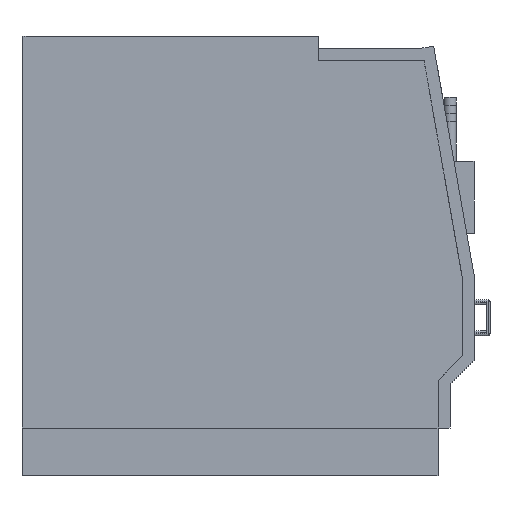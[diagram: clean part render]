
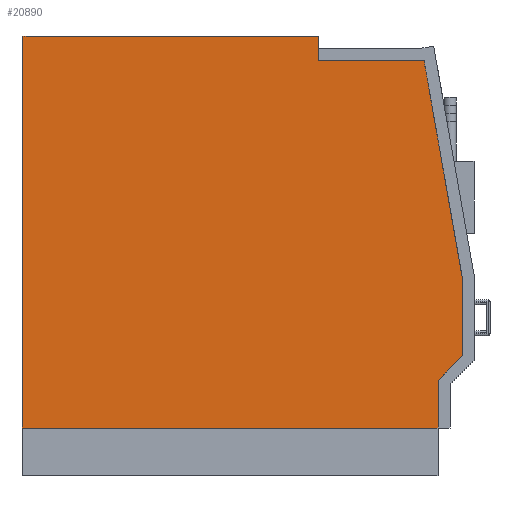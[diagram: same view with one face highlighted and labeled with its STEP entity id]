
A CAD part, left-side view. The second image highlights one B-rep face of the part: STEP entity #20890.
In plain terms, the highlighted planar face has unit normal (-1, 0, 0) as drawn and (0, 0, -1) by its records, which use the part's own axes.
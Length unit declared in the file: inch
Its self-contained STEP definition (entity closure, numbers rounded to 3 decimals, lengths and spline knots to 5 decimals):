
#2045=LINE('',#34147,#4017);
#2047=LINE('',#34152,#4019);
#2052=LINE('',#34162,#4024);
#2055=LINE('',#34167,#4027);
#2058=LINE('',#34173,#4030);
#2059=LINE('',#34176,#4031);
#2060=LINE('',#34177,#4032);
#2061=LINE('',#34178,#4033);
#2062=LINE('',#34179,#4034);
#4017=VECTOR('',#26940,12.);
#4019=VECTOR('',#26944,6.);
#4024=VECTOR('',#26951,26.47834);
#4027=VECTOR('',#26956,74.);
#4030=VECTOR('',#26961,20.);
#4031=VECTOR('',#26964,98.);
#4032=VECTOR('',#26965,104.);
#4033=VECTOR('',#26966,8.48528);
#4034=VECTOR('',#26967,54.83304);
#5846=FACE_OUTER_BOUND('',#7071,.T.);
#7071=EDGE_LOOP('',(#17122,#17123,#17124,#17125,#17126,#17127,#17128,#17129,
#17130));
#9555=VERTEX_POINT('',#34143);
#9556=VERTEX_POINT('',#34145);
#9557=VERTEX_POINT('',#34149);
#9558=VERTEX_POINT('',#34151);
#9562=VERTEX_POINT('',#34161);
#9563=VERTEX_POINT('',#34165);
#9564=VERTEX_POINT('',#34169);
#9565=VERTEX_POINT('',#34171);
#9566=VERTEX_POINT('',#34175);
#12205=EDGE_CURVE('',#9556,#9555,#2045,.T.);
#12207=EDGE_CURVE('',#9558,#9557,#2047,.T.);
#12212=EDGE_CURVE('',#9562,#9558,#2052,.T.);
#12215=EDGE_CURVE('',#9563,#9557,#2055,.T.);
#12218=EDGE_CURVE('',#9565,#9564,#2058,.T.);
#12219=EDGE_CURVE('',#9563,#9566,#2059,.T.);
#12220=EDGE_CURVE('',#9566,#9555,#2060,.T.);
#12221=EDGE_CURVE('',#9556,#9564,#2061,.F.);
#12222=EDGE_CURVE('',#9565,#9562,#2062,.T.);
#17122=ORIENTED_EDGE('',*,*,#12212,.T.);
#17123=ORIENTED_EDGE('',*,*,#12207,.T.);
#17124=ORIENTED_EDGE('',*,*,#12215,.F.);
#17125=ORIENTED_EDGE('',*,*,#12219,.T.);
#17126=ORIENTED_EDGE('',*,*,#12220,.T.);
#17127=ORIENTED_EDGE('',*,*,#12205,.F.);
#17128=ORIENTED_EDGE('',*,*,#12221,.T.);
#17129=ORIENTED_EDGE('',*,*,#12218,.F.);
#17130=ORIENTED_EDGE('',*,*,#12222,.T.);
#19853=PLANE('',#22813);
#20890=ADVANCED_FACE('',(#5846),#19853,.F.);
#22813=AXIS2_PLACEMENT_3D('',#34174,#26962,#26963);
#26940=DIRECTION('',(-1.,0.,0.));
#26944=DIRECTION('',(1.,0.,0.));
#26951=DIRECTION('',(0.,-1.,0.));
#26956=DIRECTION('',(0.,1.,0.));
#26961=DIRECTION('',(-1.,0.,0.));
#26962=DIRECTION('center_axis',(0.,0.,1.));
#26963=DIRECTION('ref_axis',(1.,0.,0.));
#26964=DIRECTION('',(-1.,0.,0.));
#26965=DIRECTION('',(0.,1.,0.));
#26966=DIRECTION('',(-0.707,-0.707,0.));
#26967=DIRECTION('',(0.985,-0.174,0.));
#34143=CARTESIAN_POINT('',(-47.17059,43.02178,-72.99998));
#34145=CARTESIAN_POINT('',(-35.17059,43.02178,-72.99998));
#34147=CARTESIAN_POINT('',(-35.17059,43.02178,-72.99998));
#34149=CARTESIAN_POINT('',(50.82941,13.02178,-72.99998));
#34151=CARTESIAN_POINT('',(44.82941,13.02178,-72.99998));
#34152=CARTESIAN_POINT('',(44.82941,13.02178,-72.99998));
#34161=CARTESIAN_POINT('',(44.82941,39.50012,-72.99998));
#34162=CARTESIAN_POINT('',(44.82941,39.50012,-72.99998));
#34165=CARTESIAN_POINT('',(50.82941,-60.97822,-72.99998));
#34167=CARTESIAN_POINT('',(50.82941,-60.97822,-72.99998));
#34169=CARTESIAN_POINT('',(-29.17059,49.02178,-72.99998));
#34171=CARTESIAN_POINT('',(-9.17059,49.02178,-72.99998));
#34173=CARTESIAN_POINT('',(-9.17059,49.02178,-72.99998));
#34174=CARTESIAN_POINT('Origin',(50.82941,-60.97822,-72.99998));
#34175=CARTESIAN_POINT('',(-47.17059,-60.97822,-72.99998));
#34176=CARTESIAN_POINT('',(50.82941,-60.97822,-72.99998));
#34177=CARTESIAN_POINT('',(-47.17059,-60.97822,-72.99998));
#34178=CARTESIAN_POINT('',(-29.17059,49.02178,-72.99998));
#34179=CARTESIAN_POINT('',(-9.17059,49.02178,-72.99998));
